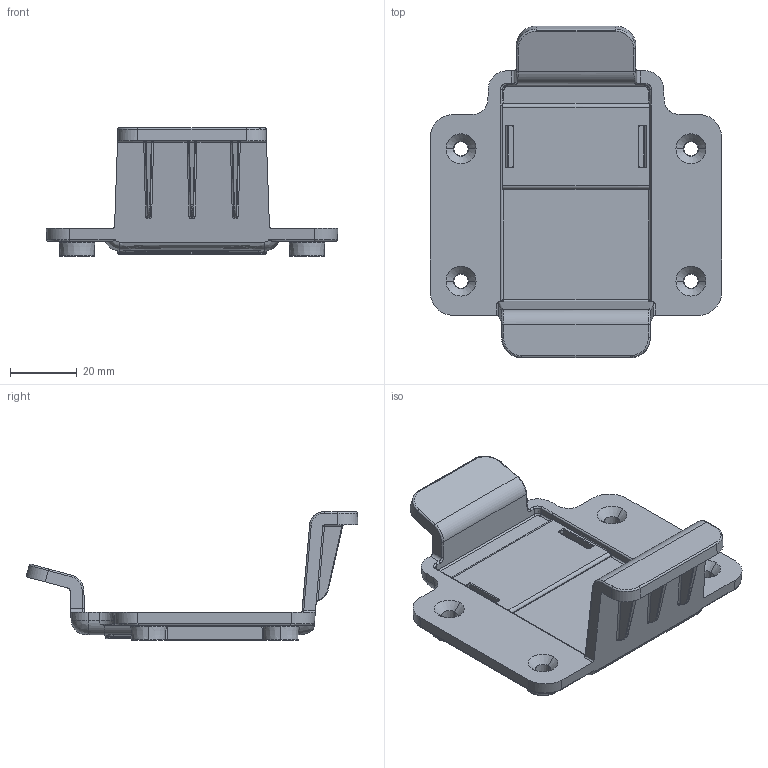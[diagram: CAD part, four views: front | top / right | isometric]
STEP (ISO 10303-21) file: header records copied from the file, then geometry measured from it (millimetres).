
FILE_DESCRIPTION (( 'STEP AP203' ), '1' );
FILE_NAME ('Xdock.STEP', '2024-10-30T15:39:11', ( '' ), ( '' ), 'SwSTEP 2.0', 'SolidWorks 2024', '' );
FILE_SCHEMA (( 'CONFIG_CONTROL_DESIGN' ));
Length unit declared in the file: millimetre
Products named in the file (1): Xdock
Bounding box: 87.47 x 99.53 x 38.66 mm (x, y, z)
Volume: 38459.6 mm3; surface area: 23975.6 mm2
Topology: 2 solids, 2 shells, 823 faces, 2055 edges, 1272 vertices
Faces by surface type: bspline 322, plane 255, cylinder 160, torus 38, cone 32, sphere 16
Entity records: 37344 total; most frequent: CARTESIAN_POINT 20111, ORIENTED_EDGE 4094, DIRECTION 2738, EDGE_CURVE 2047, VERTEX_POINT 1272, LINE 972, VECTOR 972, AXIS2_PLACEMENT_3D 883
